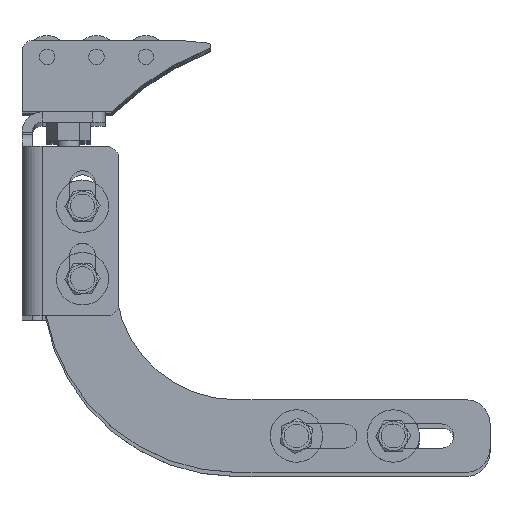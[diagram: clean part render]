
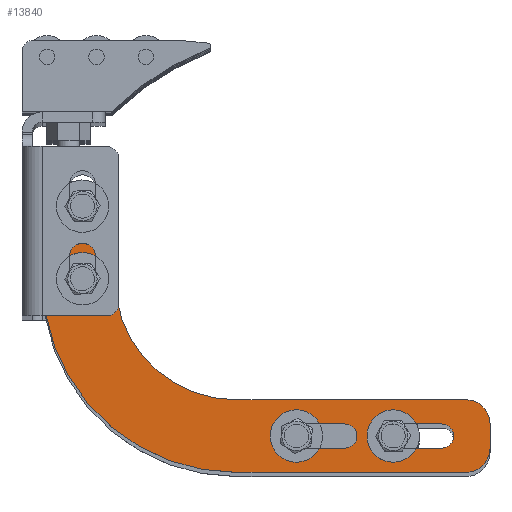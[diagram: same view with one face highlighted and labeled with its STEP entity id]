
A CAD part, top view. The second image highlights one B-rep face of the part: STEP entity #13840.
In plain terms, the highlighted planar face has unit normal (0, 0, 1) as drawn and (0, 0, -1) by its records, which use the part's own axes.
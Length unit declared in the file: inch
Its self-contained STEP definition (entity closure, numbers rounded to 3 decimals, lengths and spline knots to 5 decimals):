
#13282=DIRECTION('',(0.,-1.,0.));
#13283=VECTOR('',#13282,0.75);
#13284=CARTESIAN_POINT('',(0.,2.75,-0.25));
#13285=LINE('',#13284,#13283);
#13286=CARTESIAN_POINT('',(-0.25,2.75,-0.25));
#13287=DIRECTION('',(0.,0.,-1.));
#13288=DIRECTION('',(0.,1.,0.));
#13289=AXIS2_PLACEMENT_3D('',#13286,#13287,#13288);
#13291=DIRECTION('',(1.,0.,0.));
#13292=VECTOR('',#13291,0.25);
#13293=CARTESIAN_POINT('',(-0.5,3.,-0.25));
#13294=LINE('',#13293,#13292);
#13295=CARTESIAN_POINT('',(-0.5,2.75,-0.25));
#13296=DIRECTION('',(0.,0.,-1.));
#13297=DIRECTION('',(-1.,0.,0.));
#13298=AXIS2_PLACEMENT_3D('',#13295,#13296,#13297);
#13300=DIRECTION('',(0.,1.,0.));
#13301=VECTOR('',#13300,0.75);
#13302=CARTESIAN_POINT('',(-0.75,2.,-0.25));
#13303=LINE('',#13302,#13301);
#13304=CARTESIAN_POINT('',(-2.,2.,-0.25));
#13305=DIRECTION('',(0.,0.,1.));
#13306=DIRECTION('',(0.,-1.,0.));
#13307=AXIS2_PLACEMENT_3D('',#13304,#13305,#13306);
#13309=DIRECTION('',(1.,0.,0.));
#13310=VECTOR('',#13309,2.375);
#13311=CARTESIAN_POINT('',(-4.375,0.75,-0.25));
#13312=LINE('',#13311,#13310);
#13313=CARTESIAN_POINT('',(-4.375,0.5,-0.25));
#13314=DIRECTION('',(0.,0.,-1.));
#13315=DIRECTION('',(-1.,0.,0.));
#13316=AXIS2_PLACEMENT_3D('',#13313,#13314,#13315);
#13318=DIRECTION('',(0.,1.,0.));
#13319=VECTOR('',#13318,0.25);
#13320=CARTESIAN_POINT('',(-4.625,0.25,-0.25));
#13321=LINE('',#13320,#13319);
#13322=CARTESIAN_POINT('',(-4.375,0.25,-0.25));
#13323=DIRECTION('',(0.,0.,-1.));
#13324=DIRECTION('',(0.,-1.,0.));
#13325=AXIS2_PLACEMENT_3D('',#13322,#13323,#13324);
#13327=DIRECTION('',(-1.,0.,0.));
#13328=VECTOR('',#13327,2.375);
#13329=CARTESIAN_POINT('',(-2.,0.,-0.25));
#13330=LINE('',#13329,#13328);
#13331=CARTESIAN_POINT('',(-2.,2.,-0.25));
#13332=DIRECTION('',(0.,0.,-1.));
#13333=DIRECTION('',(1.,0.,0.));
#13334=AXIS2_PLACEMENT_3D('',#13331,#13332,#13333);
#13336=CARTESIAN_POINT('',(-0.4145,2.,-0.25));
#13337=DIRECTION('',(0.,0.,1.));
#13338=DIRECTION('',(1.,0.,0.));
#13339=AXIS2_PLACEMENT_3D('',#13336,#13337,#13338);
#13341=CARTESIAN_POINT('',(-0.4145,2.,-0.25));
#13342=DIRECTION('',(0.,0.,1.));
#13343=DIRECTION('',(-1.,0.,0.));
#13344=AXIS2_PLACEMENT_3D('',#13341,#13342,#13343);
#13346=CARTESIAN_POINT('',(-0.4145,2.75,-0.25));
#13347=DIRECTION('',(0.,0.,1.));
#13348=DIRECTION('',(1.,0.,0.));
#13349=AXIS2_PLACEMENT_3D('',#13346,#13347,#13348);
#13351=CARTESIAN_POINT('',(-0.4145,2.75,-0.25));
#13352=DIRECTION('',(0.,0.,1.));
#13353=DIRECTION('',(-1.,0.,0.));
#13354=AXIS2_PLACEMENT_3D('',#13351,#13352,#13353);
#13356=CARTESIAN_POINT('',(-2.625,0.375,-0.25));
#13357=DIRECTION('',(0.,0.,1.));
#13358=DIRECTION('',(1.,0.,0.));
#13359=AXIS2_PLACEMENT_3D('',#13356,#13357,#13358);
#13361=CARTESIAN_POINT('',(-2.625,0.375,-0.25));
#13362=DIRECTION('',(0.,0.,1.));
#13363=DIRECTION('',(0.,-1.,0.));
#13364=AXIS2_PLACEMENT_3D('',#13361,#13362,#13363);
#13366=CARTESIAN_POINT('',(-3.125,0.375,-0.25));
#13367=DIRECTION('',(0.,0.,1.));
#13368=DIRECTION('',(-1.,0.,0.));
#13369=AXIS2_PLACEMENT_3D('',#13366,#13367,#13368);
#13371=CARTESIAN_POINT('',(-3.125,0.375,-0.25));
#13372=DIRECTION('',(0.,0.,1.));
#13373=DIRECTION('',(0.,1.,0.));
#13374=AXIS2_PLACEMENT_3D('',#13371,#13372,#13373);
#13376=CARTESIAN_POINT('',(-3.625,0.375,-0.25));
#13377=DIRECTION('',(0.,0.,1.));
#13378=DIRECTION('',(1.,0.,0.));
#13379=AXIS2_PLACEMENT_3D('',#13376,#13377,#13378);
#13381=CARTESIAN_POINT('',(-3.625,0.375,-0.25));
#13382=DIRECTION('',(0.,0.,1.));
#13383=DIRECTION('',(0.,-1.,0.));
#13384=AXIS2_PLACEMENT_3D('',#13381,#13382,#13383);
#13386=CARTESIAN_POINT('',(-4.125,0.375,-0.25));
#13387=DIRECTION('',(0.,0.,1.));
#13388=DIRECTION('',(-1.,0.,0.));
#13389=AXIS2_PLACEMENT_3D('',#13386,#13387,#13388);
#13391=CARTESIAN_POINT('',(-4.125,0.375,-0.25));
#13392=DIRECTION('',(0.,0.,1.));
#13393=DIRECTION('',(0.,1.,0.));
#13394=AXIS2_PLACEMENT_3D('',#13391,#13392,#13393);
#13598=DIRECTION('',(1.,0.,0.));
#13599=VECTOR('',#13598,0.5);
#13600=CARTESIAN_POINT('',(-3.125,0.5,-0.25));
#13601=LINE('',#13600,#13599);
#13614=DIRECTION('',(-1.,0.,0.));
#13615=VECTOR('',#13614,0.5);
#13616=CARTESIAN_POINT('',(-2.625,0.25,-0.25));
#13617=LINE('',#13616,#13615);
#13626=DIRECTION('',(1.,0.,0.));
#13627=VECTOR('',#13626,0.5);
#13628=CARTESIAN_POINT('',(-4.125,0.5,-0.25));
#13629=LINE('',#13628,#13627);
#13630=DIRECTION('',(-1.,0.,0.));
#13631=VECTOR('',#13630,0.5);
#13632=CARTESIAN_POINT('',(-3.625,0.25,-0.25));
#13633=LINE('',#13632,#13631);
#13647=CARTESIAN_POINT('',(-3.625,0.5,-0.25));
#13649=VERTEX_POINT('',#13647);
#13650=CARTESIAN_POINT('',(-0.75,2.,-0.25));
#13651=CARTESIAN_POINT('',(-0.75,2.75,-0.25));
#13652=VERTEX_POINT('',#13650);
#13653=VERTEX_POINT('',#13651);
#13654=CARTESIAN_POINT('',(0.,2.,-0.25));
#13656=VERTEX_POINT('',#13654);
#13658=CARTESIAN_POINT('',(-0.51293,2.75,-0.25));
#13659=CARTESIAN_POINT('',(-0.31607,2.75,-0.25));
#13660=VERTEX_POINT('',#13658);
#13661=VERTEX_POINT('',#13659);
#13668=CARTESIAN_POINT('',(-2.,0.75,-0.25));
#13669=VERTEX_POINT('',#13668);
#13670=CARTESIAN_POINT('',(-0.5,3.,-0.25));
#13671=VERTEX_POINT('',#13670);
#13676=CARTESIAN_POINT('',(-3.125,0.5,-0.25));
#13677=CARTESIAN_POINT('',(-2.625,0.5,-0.25));
#13678=VERTEX_POINT('',#13676);
#13679=VERTEX_POINT('',#13677);
#13680=CARTESIAN_POINT('',(-0.31607,2.,-0.25));
#13681=CARTESIAN_POINT('',(-0.51293,2.,-0.25));
#13682=VERTEX_POINT('',#13680);
#13683=VERTEX_POINT('',#13681);
#13684=CARTESIAN_POINT('',(-2.,0.,-0.25));
#13685=CARTESIAN_POINT('',(-4.375,0.,-0.25));
#13686=VERTEX_POINT('',#13684);
#13687=VERTEX_POINT('',#13685);
#13708=CARTESIAN_POINT('',(-3.5,0.375,-0.25));
#13709=VERTEX_POINT('',#13708);
#13710=CARTESIAN_POINT('',(-2.625,0.25,-0.25));
#13711=CARTESIAN_POINT('',(-2.5,0.375,-0.25));
#13712=VERTEX_POINT('',#13710);
#13713=VERTEX_POINT('',#13711);
#13718=CARTESIAN_POINT('',(-4.125,0.5,-0.25));
#13719=CARTESIAN_POINT('',(-4.25,0.375,-0.25));
#13720=VERTEX_POINT('',#13718);
#13721=VERTEX_POINT('',#13719);
#13722=CARTESIAN_POINT('',(-4.125,0.25,-0.25));
#13723=VERTEX_POINT('',#13722);
#13724=CARTESIAN_POINT('',(-3.625,0.25,-0.25));
#13725=VERTEX_POINT('',#13724);
#13726=CARTESIAN_POINT('',(-4.625,0.25,-0.25));
#13727=VERTEX_POINT('',#13726);
#13732=CARTESIAN_POINT('',(-4.625,0.5,-0.25));
#13733=VERTEX_POINT('',#13732);
#13734=CARTESIAN_POINT('',(0.,2.75,-0.25));
#13735=VERTEX_POINT('',#13734);
#13738=CARTESIAN_POINT('',(-4.375,0.75,-0.25));
#13739=VERTEX_POINT('',#13738);
#13744=CARTESIAN_POINT('',(-0.25,3.,-0.25));
#13745=VERTEX_POINT('',#13744);
#13746=CARTESIAN_POINT('',(-3.125,0.25,-0.25));
#13747=VERTEX_POINT('',#13746);
#13752=CARTESIAN_POINT('',(-3.25,0.375,-0.25));
#13753=VERTEX_POINT('',#13752);
#13770=CARTESIAN_POINT('',(0.,0.,-0.25));
#13771=DIRECTION('',(0.,0.,1.));
#13772=DIRECTION('',(1.,0.,0.));
#13773=AXIS2_PLACEMENT_3D('',#13770,#13771,#13772);
#13774=PLANE('',#13773);
#13776=ORIENTED_EDGE('',*,*,#13775,.F.);
#13778=ORIENTED_EDGE('',*,*,#13777,.F.);
#13780=ORIENTED_EDGE('',*,*,#13779,.F.);
#13782=ORIENTED_EDGE('',*,*,#13781,.F.);
#13784=ORIENTED_EDGE('',*,*,#13783,.F.);
#13786=ORIENTED_EDGE('',*,*,#13785,.F.);
#13788=ORIENTED_EDGE('',*,*,#13787,.F.);
#13790=ORIENTED_EDGE('',*,*,#13789,.F.);
#13792=ORIENTED_EDGE('',*,*,#13791,.F.);
#13794=ORIENTED_EDGE('',*,*,#13793,.F.);
#13796=ORIENTED_EDGE('',*,*,#13795,.F.);
#13798=ORIENTED_EDGE('',*,*,#13797,.F.);
#13799=EDGE_LOOP('',(#13776,#13778,#13780,#13782,#13784,#13786,#13788,#13790,
#13792,#13794,#13796,#13798));
#13800=FACE_OUTER_BOUND('',#13799,.F.);
#13802=ORIENTED_EDGE('',*,*,#13801,.F.);
#13804=ORIENTED_EDGE('',*,*,#13803,.F.);
#13805=EDGE_LOOP('',(#13802,#13804));
#13806=FACE_BOUND('',#13805,.F.);
#13808=ORIENTED_EDGE('',*,*,#13807,.F.);
#13810=ORIENTED_EDGE('',*,*,#13809,.F.);
#13811=EDGE_LOOP('',(#13808,#13810));
#13812=FACE_BOUND('',#13811,.F.);
#13814=ORIENTED_EDGE('',*,*,#13813,.T.);
#13816=ORIENTED_EDGE('',*,*,#13815,.F.);
#13818=ORIENTED_EDGE('',*,*,#13817,.F.);
#13820=ORIENTED_EDGE('',*,*,#13819,.T.);
#13822=ORIENTED_EDGE('',*,*,#13821,.F.);
#13824=ORIENTED_EDGE('',*,*,#13823,.F.);
#13825=EDGE_LOOP('',(#13814,#13816,#13818,#13820,#13822,#13824));
#13826=FACE_BOUND('',#13825,.F.);
#13828=ORIENTED_EDGE('',*,*,#13827,.T.);
#13829=ORIENTED_EDGE('',*,*,#13759,.F.);
#13831=ORIENTED_EDGE('',*,*,#13830,.F.);
#13833=ORIENTED_EDGE('',*,*,#13832,.T.);
#13835=ORIENTED_EDGE('',*,*,#13834,.F.);
#13837=ORIENTED_EDGE('',*,*,#13836,.F.);
#13838=EDGE_LOOP('',(#13828,#13829,#13831,#13833,#13835,#13837));
#13839=FACE_BOUND('',#13838,.F.);
#13290=CIRCLE('',#13289,0.25);
#13299=CIRCLE('',#13298,0.25);
#13308=CIRCLE('',#13307,1.25);
#13317=CIRCLE('',#13316,0.25);
#13326=CIRCLE('',#13325,0.25);
#13335=CIRCLE('',#13334,2.);
#13340=CIRCLE('',#13339,0.09843);
#13345=CIRCLE('',#13344,0.09843);
#13350=CIRCLE('',#13349,0.09843);
#13355=CIRCLE('',#13354,0.09843);
#13360=CIRCLE('',#13359,0.125);
#13365=CIRCLE('',#13364,0.125);
#13370=CIRCLE('',#13369,0.125);
#13375=CIRCLE('',#13374,0.125);
#13380=CIRCLE('',#13379,0.125);
#13385=CIRCLE('',#13384,0.125);
#13390=CIRCLE('',#13389,0.125);
#13395=CIRCLE('',#13394,0.125);
#13759=EDGE_CURVE('',#13709,#13649,#13380,.T.);
#13775=EDGE_CURVE('',#13735,#13656,#13285,.T.);
#13777=EDGE_CURVE('',#13745,#13735,#13290,.T.);
#13779=EDGE_CURVE('',#13671,#13745,#13294,.T.);
#13781=EDGE_CURVE('',#13653,#13671,#13299,.T.);
#13783=EDGE_CURVE('',#13652,#13653,#13303,.T.);
#13785=EDGE_CURVE('',#13669,#13652,#13308,.T.);
#13787=EDGE_CURVE('',#13739,#13669,#13312,.T.);
#13789=EDGE_CURVE('',#13733,#13739,#13317,.T.);
#13791=EDGE_CURVE('',#13727,#13733,#13321,.T.);
#13793=EDGE_CURVE('',#13687,#13727,#13326,.T.);
#13795=EDGE_CURVE('',#13686,#13687,#13330,.T.);
#13797=EDGE_CURVE('',#13656,#13686,#13335,.T.);
#13801=EDGE_CURVE('',#13682,#13683,#13340,.T.);
#13803=EDGE_CURVE('',#13683,#13682,#13345,.T.);
#13807=EDGE_CURVE('',#13661,#13660,#13350,.T.);
#13809=EDGE_CURVE('',#13660,#13661,#13355,.T.);
#13813=EDGE_CURVE('',#13678,#13679,#13601,.T.);
#13815=EDGE_CURVE('',#13713,#13679,#13360,.T.);
#13817=EDGE_CURVE('',#13712,#13713,#13365,.T.);
#13819=EDGE_CURVE('',#13712,#13747,#13617,.T.);
#13821=EDGE_CURVE('',#13753,#13747,#13370,.T.);
#13823=EDGE_CURVE('',#13678,#13753,#13375,.T.);
#13827=EDGE_CURVE('',#13720,#13649,#13629,.T.);
#13830=EDGE_CURVE('',#13725,#13709,#13385,.T.);
#13832=EDGE_CURVE('',#13725,#13723,#13633,.T.);
#13834=EDGE_CURVE('',#13721,#13723,#13390,.T.);
#13836=EDGE_CURVE('',#13720,#13721,#13395,.T.);
#13840=ADVANCED_FACE('',(#13800,#13806,#13812,#13826,#13839),#13774,.F.);
